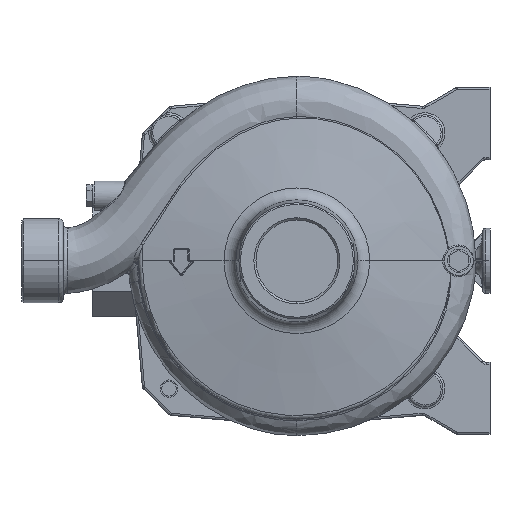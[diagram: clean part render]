
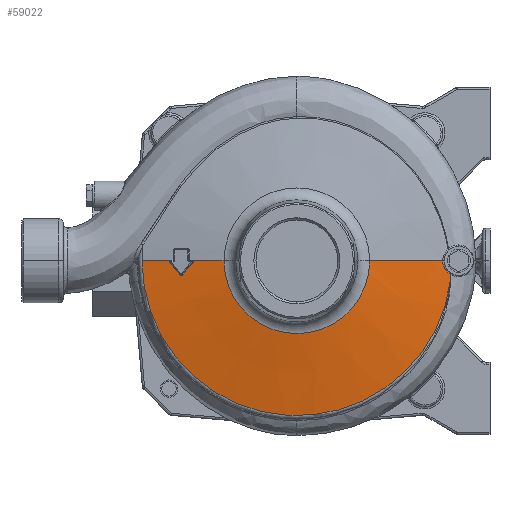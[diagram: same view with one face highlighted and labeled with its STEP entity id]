
A CAD part, left-side view. The second image highlights one B-rep face of the part: STEP entity #59022.
In plain terms, the highlighted conical face has half-angle 80 degrees and reference radius 78.683 mm.
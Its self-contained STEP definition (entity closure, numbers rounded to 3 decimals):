
#40578=CARTESIAN_POINT('',(-13.857,-106.12,
16.811));
#44792=DIRECTION('',(0.,0.985,0.174));
#44793=VECTOR('',#44792,51.261);
#44794=CARTESIAN_POINT('',(0.,-100.826,
17.903));
#44795=LINE('',#44794,#44793);
#44872=CARTESIAN_POINT('',(0.,88.098,
20.147));
#45192=CARTESIAN_POINT('',(0.,-100.826,
17.903));
#45193=CARTESIAN_POINT('',(-0.742,-100.827,
17.903));
#45194=CARTESIAN_POINT('',(-2.183,-100.971,
17.875));
#45195=CARTESIAN_POINT('',(-4.322,-101.634,
17.746));
#45196=CARTESIAN_POINT('',(-6.242,-102.687,
17.543));
#45197=CARTESIAN_POINT('',(-7.963,-104.141,
17.266));
#45198=CARTESIAN_POINT('',(-8.884,-105.315,
17.046));
#45199=CARTESIAN_POINT('',(-9.292,-105.964,
16.926));
#45201=CARTESIAN_POINT('',(-9.292,-105.964,
16.926));
#45202=CARTESIAN_POINT('',(-9.561,-105.973,
16.92));
#45203=CARTESIAN_POINT('',(-10.083,-105.99,
16.908));
#45204=CARTESIAN_POINT('',(-10.812,-106.013,
16.892));
#45205=CARTESIAN_POINT('',(-11.493,-106.035,
16.875));
#45206=CARTESIAN_POINT('',(-12.13,-106.055,
16.859));
#45207=CARTESIAN_POINT('',(-12.726,-106.076,
16.844));
#45208=CARTESIAN_POINT('',(-13.281,-106.096,
16.828));
#45209=CARTESIAN_POINT('',(-13.665,-106.112,
16.817));
#45210=CARTESIAN_POINT('',(-13.857,-106.12,
16.811));
#45212=CARTESIAN_POINT('',(0.,0.,16.811));
#45213=DIRECTION('',(0.,0.,1.));
#45214=DIRECTION('',(0.,1.,0.));
#45215=AXIS2_PLACEMENT_3D('',#45212,#45213,#45214);
#45217=DIRECTION('',(0.,-0.985,0.174));
#45218=VECTOR('',#45217,19.215);
#45219=CARTESIAN_POINT('',(0.,107.021,
16.811));
#45220=LINE('',#45219,#45218);
#45221=CARTESIAN_POINT('',(0.,88.098,
20.147));
#45222=CARTESIAN_POINT('',(-0.072,88.139,
20.14));
#45223=CARTESIAN_POINT('',(-0.221,88.203,
20.129));
#45224=CARTESIAN_POINT('',(-0.469,88.242,
20.122));
#45225=CARTESIAN_POINT('',(-0.715,88.219,
20.126));
#45226=CARTESIAN_POINT('',(-0.947,88.137,
20.14));
#45227=CARTESIAN_POINT('',(-1.08,88.05,
20.155));
#45228=CARTESIAN_POINT('',(-1.142,87.998,
20.164));
#45230=CARTESIAN_POINT('',(-1.142,87.998,
20.164));
#45231=CARTESIAN_POINT('',(-2.142,87.158,
20.31));
#45232=CARTESIAN_POINT('',(-4.119,85.497,
20.592));
#45233=CARTESIAN_POINT('',(-7.021,83.06,
20.987));
#45234=CARTESIAN_POINT('',(-8.916,81.468,
21.232));
#45235=CARTESIAN_POINT('',(-9.854,80.68,
21.35));
#45237=CARTESIAN_POINT('',(-9.854,80.68,
21.35));
#45238=CARTESIAN_POINT('',(-9.912,80.632,
21.357));
#45239=CARTESIAN_POINT('',(-10.016,80.523,
21.374));
#45240=CARTESIAN_POINT('',(-10.14,80.311,
21.408));
#45241=CARTESIAN_POINT('',(-10.21,80.069,
21.449));
#45242=CARTESIAN_POINT('',(-10.217,79.813,
21.493));
#45243=CARTESIAN_POINT('',(-10.158,79.56,
21.539));
#45244=CARTESIAN_POINT('',(-10.035,79.328,
21.582));
#45245=CARTESIAN_POINT('',(-9.92,79.203,
21.607));
#45246=CARTESIAN_POINT('',(-9.854,79.148,
21.618));
#45248=CARTESIAN_POINT('',(-9.854,79.148,
21.618));
#45249=CARTESIAN_POINT('',(-8.833,78.29,
21.79));
#45250=CARTESIAN_POINT('',(-6.827,76.605,
22.123));
#45251=CARTESIAN_POINT('',(-3.931,74.172,
22.588));
#45252=CARTESIAN_POINT('',(-2.061,72.601,
22.876));
#45253=CARTESIAN_POINT('',(-1.141,71.828,
23.015));
#45255=CARTESIAN_POINT('',(-1.141,71.828,
23.015));
#45256=CARTESIAN_POINT('',(-1.103,71.796,
23.02));
#45257=CARTESIAN_POINT('',(-1.019,71.735,
23.031));
#45258=CARTESIAN_POINT('',(-0.861,71.656,
23.046));
#45259=CARTESIAN_POINT('',(-0.672,71.602,
23.056));
#45260=CARTESIAN_POINT('',(-0.453,71.587,
23.059));
#45261=CARTESIAN_POINT('',(-0.219,71.625,
23.052));
#45262=CARTESIAN_POINT('',(-0.072,71.687,
23.041));
#45263=CARTESIAN_POINT('',(0.,71.728,
23.034));
#45265=DIRECTION('',(0.,-0.985,0.174));
#45266=VECTOR('',#45265,21.714);
#45267=CARTESIAN_POINT('',(0.,71.728,
23.034));
#45268=LINE('',#45267,#45266);
#45269=CARTESIAN_POINT('',(0.,0.,26.804));
#45270=DIRECTION('',(0.,0.,-1.));
#45271=DIRECTION('',(0.,-1.,0.));
#45272=AXIS2_PLACEMENT_3D('',#45269,#45270,#45271);
#46559=CARTESIAN_POINT('',(0.,-50.344,26.804));
#46560=CARTESIAN_POINT('',(0.,50.344,26.804));
#46561=VERTEX_POINT('',#46559);
#46562=VERTEX_POINT('',#46560);
#46635=VERTEX_POINT('',#45255);
#46636=VERTEX_POINT('',#45263);
#46661=VERTEX_POINT('',#44872);
#46663=VERTEX_POINT('',#45228);
#46665=VERTEX_POINT('',#45235);
#46667=VERTEX_POINT('',#45246);
#46669=CARTESIAN_POINT('',(0.,107.021,
16.811));
#46670=VERTEX_POINT('',#46669);
#47063=CARTESIAN_POINT('',(0.,-100.826,
17.903));
#47065=VERTEX_POINT('',#47063);
#47068=VERTEX_POINT('',#45199);
#47415=VERTEX_POINT('',#40578);
#58997=CARTESIAN_POINT('',(0.,0.,21.808));
#58998=DIRECTION('',(0.,0.,-1.));
#58999=DIRECTION('',(0.,-1.,0.));
#59000=AXIS2_PLACEMENT_3D('',#58997,#58998,#58999);
#59001=CONICAL_SURFACE('',#59000,78.683,80.);
#59002=ORIENTED_EDGE('',*,*,#58480,.T.);
#59003=ORIENTED_EDGE('',*,*,#48085,.T.);
#59004=ORIENTED_EDGE('',*,*,#48253,.F.);
#59005=ORIENTED_EDGE('',*,*,#58384,.T.);
#59007=ORIENTED_EDGE('',*,*,#59006,.T.);
#59009=ORIENTED_EDGE('',*,*,#59008,.T.);
#59011=ORIENTED_EDGE('',*,*,#59010,.T.);
#59013=ORIENTED_EDGE('',*,*,#59012,.T.);
#59015=ORIENTED_EDGE('',*,*,#59014,.T.);
#59016=ORIENTED_EDGE('',*,*,#58364,.T.);
#59018=ORIENTED_EDGE('',*,*,#59017,.F.);
#59019=ORIENTED_EDGE('',*,*,#58360,.F.);
#59020=EDGE_LOOP('',(#59002,#59003,#59004,#59005,#59007,#59009,#59011,#59013,
#59015,#59016,#59018,#59019));
#59021=FACE_OUTER_BOUND('',#59020,.F.);
#45200=B_SPLINE_CURVE_WITH_KNOTS('',3,(#45192,#45193,#45194,#45195,#45196,
#45197,#45198,#45199),.UNSPECIFIED.,.F.,.F.,(4,1,1,1,1,4),(0.,0.2,0.4,
0.6,0.8,1.),.UNSPECIFIED.);
#45211=B_SPLINE_CURVE_WITH_KNOTS('',3,(#45201,#45202,#45203,#45204,#45205,
#45206,#45207,#45208,#45209,#45210),.UNSPECIFIED.,.F.,.F.,(4,1,1,1,1,1,1,4),(
0.,0.143,0.286,0.429,0.571,
0.714,0.857,1.),.UNSPECIFIED.);
#45216=CIRCLE('',#45215,107.021);
#45229=B_SPLINE_CURVE_WITH_KNOTS('',3,(#45221,#45222,#45223,#45224,#45225,
#45226,#45227,#45228),.UNSPECIFIED.,.F.,.F.,(4,1,1,1,1,4),(0.,0.2,0.4,
0.6,0.8,1.),.UNSPECIFIED.);
#45236=B_SPLINE_CURVE_WITH_KNOTS('',3,(#45230,#45231,#45232,#45233,#45234,
#45235),.UNSPECIFIED.,.F.,.F.,(4,1,1,4),(0.,0.333,
0.667,1.),.UNSPECIFIED.);
#45247=B_SPLINE_CURVE_WITH_KNOTS('',3,(#45237,#45238,#45239,#45240,#45241,
#45242,#45243,#45244,#45245,#45246),.UNSPECIFIED.,.F.,.F.,(4,1,1,1,1,1,1,4),(
0.,0.143,0.286,0.429,0.571,
0.714,0.857,1.),.UNSPECIFIED.);
#45254=B_SPLINE_CURVE_WITH_KNOTS('',3,(#45248,#45249,#45250,#45251,#45252,
#45253),.UNSPECIFIED.,.F.,.F.,(4,1,1,4),(0.,0.333,
0.667,1.),.UNSPECIFIED.);
#45264=B_SPLINE_CURVE_WITH_KNOTS('',3,(#45255,#45256,#45257,#45258,#45259,
#45260,#45261,#45262,#45263),.UNSPECIFIED.,.F.,.F.,(4,1,1,1,1,1,4),(0.,
0.167,0.333,0.5,0.667,0.833,
1.),.UNSPECIFIED.);
#45273=CIRCLE('',#45272,50.344);
#48085=EDGE_CURVE('',#47068,#47415,#45211,.T.);
#48253=EDGE_CURVE('',#46670,#47415,#45216,.T.);
#58360=EDGE_CURVE('',#47065,#46561,#44795,.T.);
#58364=EDGE_CURVE('',#46636,#46562,#45268,.T.);
#58384=EDGE_CURVE('',#46670,#46661,#45220,.T.);
#58480=EDGE_CURVE('',#47065,#47068,#45200,.T.);
#59006=EDGE_CURVE('',#46661,#46663,#45229,.T.);
#59008=EDGE_CURVE('',#46663,#46665,#45236,.T.);
#59010=EDGE_CURVE('',#46665,#46667,#45247,.T.);
#59012=EDGE_CURVE('',#46667,#46635,#45254,.T.);
#59014=EDGE_CURVE('',#46635,#46636,#45264,.T.);
#59017=EDGE_CURVE('',#46561,#46562,#45273,.T.);
#59022=ADVANCED_FACE('',(#59021),#59001,.T.);
